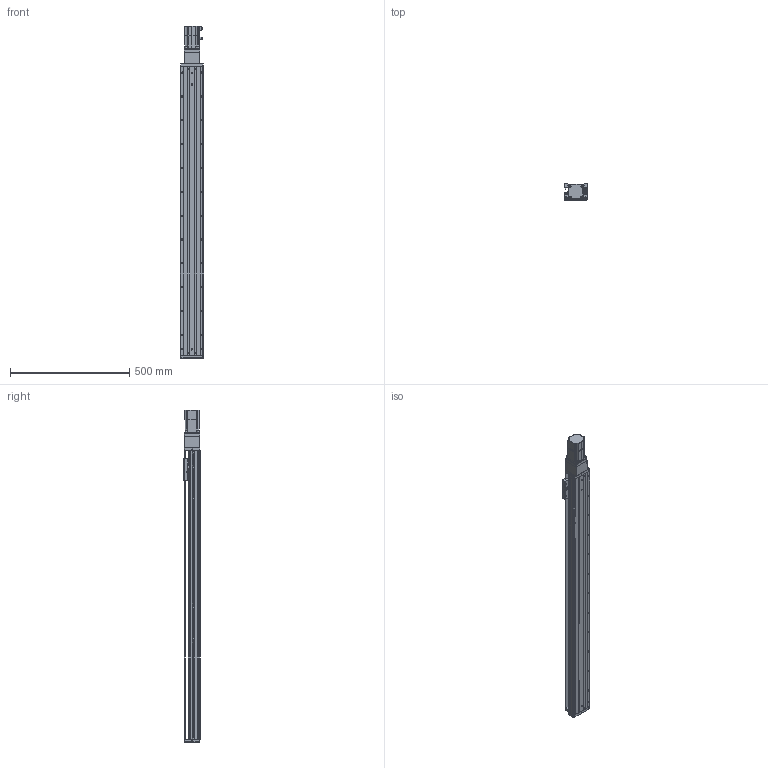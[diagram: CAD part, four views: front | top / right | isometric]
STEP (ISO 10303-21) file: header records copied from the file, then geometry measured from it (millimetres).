
FILE_DESCRIPTION (( 'STEP AP203' ), '1' );
FILE_NAME ('KTHA100-1050-BC-M20-C4L.step', '2022-04-26T01:43:10', ( '微软用户' ), ( '微软中国' ), 'SwSTEP 2.0', 'SolidWorks 2020', '' );
FILE_SCHEMA (( 'CONFIG_CONTROL_DESIGN' ));
Length unit declared in the file: millimetre
Products named in the file (18): GB¨uT 70.2-M3¡Á5_M3¡Á6; CTHA60-016; EE_SX911P_R; GBT 70.3-M3℅6; CTHA60-017; _X2_4E0983F1_X0_200W_1; KTHA100-001_1210; CTHA60-021; CTHA86-013; KTHA100-002; GBT77-2000 M3×3; CTHA86-027; KTHA100-004; GBT 70.1-M3℅6; CTHA86-006-1_CTHA86-006-2; KTHA100-005; GBT70.1 M5℅16; KTHA100-1050-BC-M20-C4L
Assembly tree (56 placements, depth 2):
  KTHA100-1050-BC-M20-C4L
    KTHA100-001_1210
    KTHA100-002
    KTHA100-004
    KTHA100-005
    GB¨uT 70.2-M3¡Á5_M3¡Á6  x6
    EE_SX911P_R  x3
    CTHA60-017  x3
    CTHA60-021  x2
    GBT77-2000 M3×3  x6
    GBT 70.1-M3℅6  x6
    GBT70.1 M5℅16  x14
    CTHA60-016  x2
    GBT 70.3-M3℅6  x6
    _X2_4E0983F1_X0_200W_1
    CTHA86-013
    CTHA86-027
    CTHA86-006-1_CTHA86-006-2
Bounding box: 98.82 x 68 x 1392.5 mm (x, y, z)
Volume: 5127320.3 mm3; surface area: 842685.1 mm2
Topology: 59 solids, 59 shells, 2507 faces, 6024 edges, 3724 vertices
Faces by surface type: plane 1287, cylinder 691, cone 340, torus 104, bspline 69, sphere 16
Entity records: 44828 total; most frequent: CARTESIAN_POINT 8535, DIRECTION 7099, ORIENTED_EDGE 6816, EDGE_CURVE 3408, AXIS2_PLACEMENT_3D 2460, VECTOR 2179, LINE 2179, VERTEX_POINT 2142
